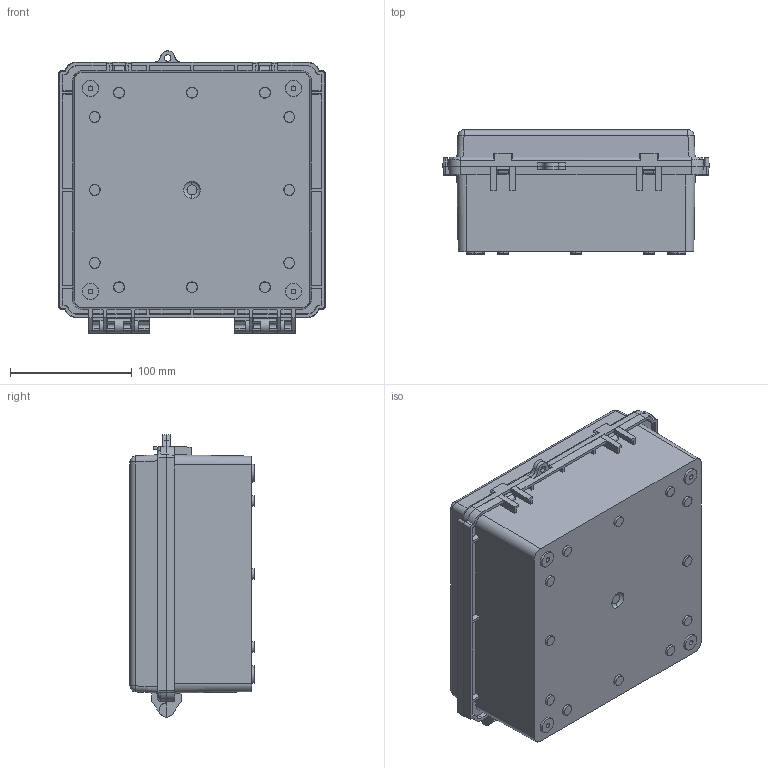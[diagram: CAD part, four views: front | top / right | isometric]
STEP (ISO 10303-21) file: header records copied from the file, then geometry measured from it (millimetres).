
FILE_DESCRIPTION (( 'STEP AP203' ), '1' );
FILE_NAME ('EC-2121-13-0-0.STEP', '2020-03-20T08:49:24', ( '' ), ( '' ), 'SwSTEP 2.0', 'SolidWorks 2020', '' );
FILE_SCHEMA (( 'CONFIG_CONTROL_DESIGN' ));
Length unit declared in the file: millimetre
Products named in the file (3): EC-2121-13-0-0; EC-2121-P-2; EC-2121-P-1
Assembly tree (2 placements, depth 2):
  EC-2121-13-0-0
    EC-2121-P-1
    EC-2121-P-2
Bounding box: 219 x 102 x 232.4 mm (x, y, z)
Volume: 588767.1 mm3; surface area: 354378.2 mm2
Topology: 2 solids, 2 shells, 641 faces, 1683 edges, 1080 vertices
Faces by surface type: plane 382, cylinder 108, cone 96, bspline 36, torus 10, sphere 9
Entity records: 21023 total; most frequent: CARTESIAN_POINT 5386, ORIENTED_EDGE 3344, DIRECTION 3002, EDGE_CURVE 1672, VECTOR 1110, LINE 1110, VERTEX_POINT 1078, AXIS2_PLACEMENT_3D 946
